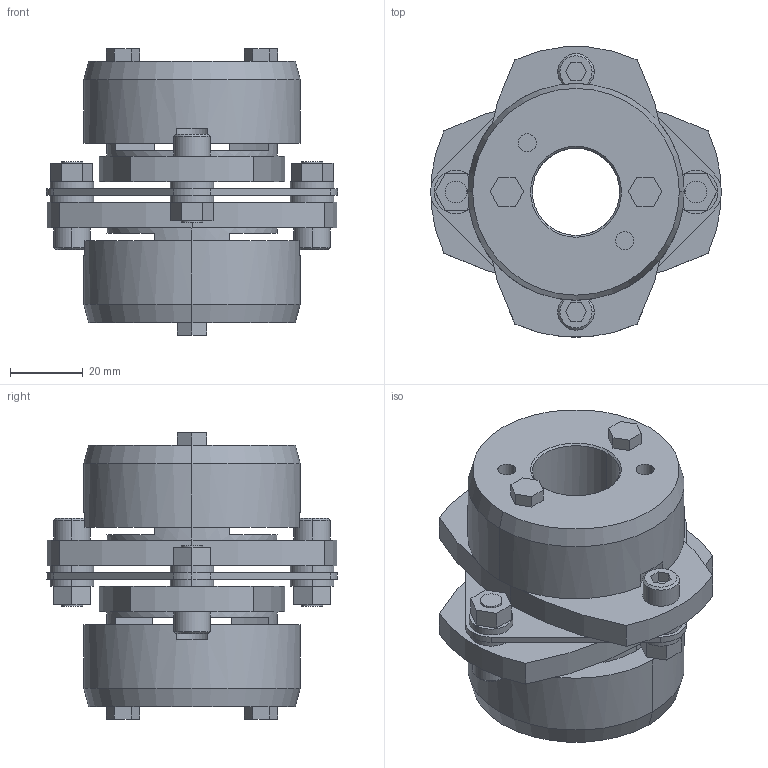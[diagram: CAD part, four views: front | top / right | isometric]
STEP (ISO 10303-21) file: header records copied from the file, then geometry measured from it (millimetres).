
FILE_DESCRIPTION((''),'2;1');
FILE_NAME('LCS-80T7-24×25.stp','2011-09-12T16:28:56',(''),(''),'AutoCAD STEP 2000i','AutoCAD 2000i',', , ');
FILE_SCHEMA(('CONFIG_CONTROL_DESIGN'));
Length unit declared in the file: millimetre
Products named in the file (10): LCS-80T7-24×24; 忣兜1; LC80T7-T024-1; LC80T7-T024; LC80T7-T022; LC80T7-T019-1; LC80T7-T019; LC80T7-T017-1; LC80T7-T017; LCS80-ITA
Assembly tree (9 placements, depth 2):
  LCS-80T7-24×24
    忣兜1
    LC80T7-T024-1
    LC80T7-T024
    LC80T7-T022
    LC80T7-T019-1
    LC80T7-T019
    LC80T7-T017-1
    LC80T7-T017
    LCS80-ITA
Bounding box: 80 x 79.95 x 78.75 mm (x, y, z)
Volume: 159692.5 mm3; surface area: 44193.9 mm2
Topology: 1 solids, 1 shells, 226 faces, 556 edges, 364 vertices
Faces by surface type: plane 122, cylinder 84, cone 20
Entity records: 6969 total; most frequent: DIRECTION 1240, CARTESIAN_POINT 1156, ORIENTED_EDGE 1112, EDGE_CURVE 556, AXIS2_PLACEMENT_3D 448, VERTEX_POINT 364, VECTOR 344, LINE 344
